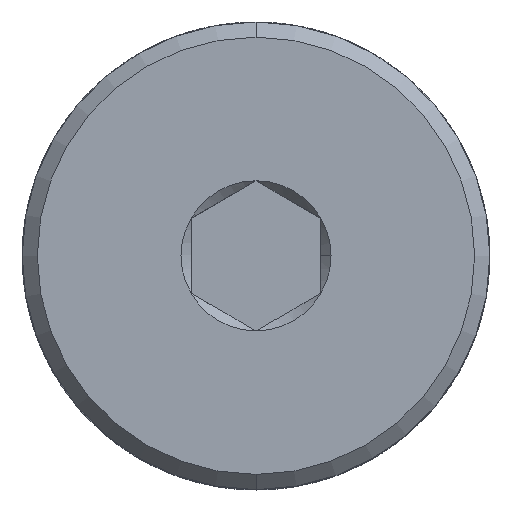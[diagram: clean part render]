
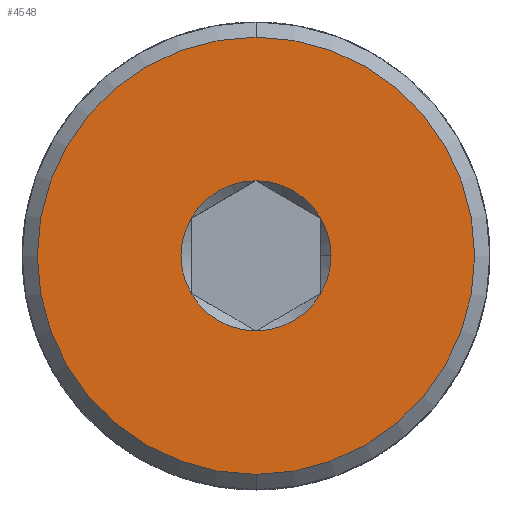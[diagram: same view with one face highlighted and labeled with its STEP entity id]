
A CAD part, top view. The second image highlights one B-rep face of the part: STEP entity #4548.
In plain terms, the highlighted planar face has unit normal (0, 0, 1).
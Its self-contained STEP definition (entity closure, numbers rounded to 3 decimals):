
#65 = VERTEX_POINT ( 'NONE', #4078 ) ;
#352 = DIRECTION ( 'NONE',  ( 0., -1., 0. ) ) ;
#448 = CARTESIAN_POINT ( 'NONE',  ( 0., 0., 0. ) ) ;
#568 = CARTESIAN_POINT ( 'NONE',  ( 0., 0., 0. ) ) ;
#1404 = AXIS2_PLACEMENT_3D ( 'NONE', #8253, #1694, #9374 ) ;
#1537 = CARTESIAN_POINT ( 'NONE',  ( 0., 0., 0. ) ) ;
#1548 = DIRECTION ( 'NONE',  ( 0., -1., 0. ) ) ;
#1626 = ORIENTED_EDGE ( 'NONE', *, *, #3085, .F. ) ;
#1681 = DIRECTION ( 'NONE',  ( 0., -1., 0. ) ) ;
#1694 = DIRECTION ( 'NONE',  ( 0., 0., 1. ) ) ;
#1711 = CIRCLE ( 'NONE', #7906, 1.443 ) ;
#1814 = AXIS2_PLACEMENT_3D ( 'NONE', #11953, #5354, #13045 ) ;
#1890 = AXIS2_PLACEMENT_3D ( 'NONE', #11538, #4979, #12660 ) ;
#2100 = AXIS2_PLACEMENT_3D ( 'NONE', #448, #8115, #1548 ) ;
#2182 = CARTESIAN_POINT ( 'NONE',  ( 0., -1.443, 0. ) ) ;
#2280 = VERTEX_POINT ( 'NONE', #3325 ) ;
#2429 = FACE_OUTER_BOUND ( 'NONE', #9939, .T. ) ;
#2553 = CARTESIAN_POINT ( 'NONE',  ( 0., 4.207, 0. ) ) ;
#2630 = DIRECTION ( 'NONE',  ( 1., 0., 0. ) ) ;
#2841 = VERTEX_POINT ( 'NONE', #12866 ) ;
#2861 = ORIENTED_EDGE ( 'NONE', *, *, #11345, .F. ) ;
#2879 = ORIENTED_EDGE ( 'NONE', *, *, #3529, .F. ) ;
#3072 = AXIS2_PLACEMENT_3D ( 'NONE', #12267, #5674, #13366 ) ;
#3085 = EDGE_CURVE ( 'NONE', #2841, #65, #13132, .T. ) ;
#3325 = CARTESIAN_POINT ( 'NONE',  ( 0., 1.443, 0. ) ) ;
#3426 = CIRCLE ( 'NONE', #13129, 4.207 ) ;
#3529 = EDGE_CURVE ( 'NONE', #3824, #6763, #10885, .T. ) ;
#3555 = CARTESIAN_POINT ( 'NONE',  ( 1.25, -0.722, 0. ) ) ;
#3824 = VERTEX_POINT ( 'NONE', #3555 ) ;
#4044 = CARTESIAN_POINT ( 'NONE',  ( 0., 0., 0. ) ) ;
#4078 = CARTESIAN_POINT ( 'NONE',  ( -1.25, -0.722, 0. ) ) ;
#4163 = AXIS2_PLACEMENT_3D ( 'NONE', #4044, #11707, #5144 ) ;
#4548 = ADVANCED_FACE ( 'NONE', ( #10853, #2429 ), #13453, .T. ) ;
#4817 = CIRCLE ( 'NONE', #1814, 1.443 ) ;
#4871 = ORIENTED_EDGE ( 'NONE', *, *, #13582, .F. ) ;
#4979 = DIRECTION ( 'NONE',  ( 0., 0., 1. ) ) ;
#5144 = DIRECTION ( 'NONE',  ( 1., 0., 0. ) ) ;
#5354 = DIRECTION ( 'NONE',  ( 0., 0., 1. ) ) ;
#5674 = DIRECTION ( 'NONE',  ( 0., 0., 1. ) ) ;
#5678 = DIRECTION ( 'NONE',  ( 0., 0., 1. ) ) ;
#5818 = CARTESIAN_POINT ( 'NONE',  ( 0., 0., 0. ) ) ;
#5847 = CIRCLE ( 'NONE', #1890, 1.443 ) ;
#6051 = ORIENTED_EDGE ( 'NONE', *, *, #7567, .F. ) ;
#6252 = CARTESIAN_POINT ( 'NONE',  ( 1.25, 0.722, 0. ) ) ;
#6278 = ORIENTED_EDGE ( 'NONE', *, *, #13285, .T. ) ;
#6763 = VERTEX_POINT ( 'NONE', #14122 ) ;
#6802 = ORIENTED_EDGE ( 'NONE', *, *, #10615, .F. ) ;
#6898 = DIRECTION ( 'NONE',  ( 0., 0., 1. ) ) ;
#7567 = EDGE_CURVE ( 'NONE', #65, #8967, #1711, .T. ) ;
#7652 = ORIENTED_EDGE ( 'NONE', *, *, #12566, .T. ) ;
#7906 = AXIS2_PLACEMENT_3D ( 'NONE', #12275, #5678, #13370 ) ;
#7975 = AXIS2_PLACEMENT_3D ( 'NONE', #5818, #6898, #352 ) ;
#8115 = DIRECTION ( 'NONE',  ( 0., 0., 1. ) ) ;
#8168 = AXIS2_PLACEMENT_3D ( 'NONE', #1537, #9227, #2630 ) ;
#8244 = DIRECTION ( 'NONE',  ( 0., 0., 1. ) ) ;
#8253 = CARTESIAN_POINT ( 'NONE',  ( 0., 0., 0. ) ) ;
#8817 = ORIENTED_EDGE ( 'NONE', *, *, #9078, .F. ) ;
#8830 = VERTEX_POINT ( 'NONE', #6252 ) ;
#8967 = VERTEX_POINT ( 'NONE', #2182 ) ;
#8992 = CIRCLE ( 'NONE', #8168, 1.443 ) ;
#9078 = EDGE_CURVE ( 'NONE', #8830, #2280, #10357, .T. ) ;
#9227 = DIRECTION ( 'NONE',  ( 0., 0., 1. ) ) ;
#9374 = DIRECTION ( 'NONE',  ( 1., 0., 0. ) ) ;
#9939 = EDGE_LOOP ( 'NONE', ( #6278, #7652 ) ) ;
#10087 = VERTEX_POINT ( 'NONE', #13529 ) ;
#10357 = CIRCLE ( 'NONE', #3072, 1.443 ) ;
#10615 = EDGE_CURVE ( 'NONE', #6763, #8830, #5847, .T. ) ;
#10853 = FACE_BOUND ( 'NONE', #11818, .T. ) ;
#10885 = CIRCLE ( 'NONE', #1404, 1.443 ) ;
#10991 = CIRCLE ( 'NONE', #2100, 4.207 ) ;
#11345 = EDGE_CURVE ( 'NONE', #8967, #3824, #4817, .T. ) ;
#11538 = CARTESIAN_POINT ( 'NONE',  ( 0., 0., 0. ) ) ;
#11707 = DIRECTION ( 'NONE',  ( 0., 0., 1. ) ) ;
#11818 = EDGE_LOOP ( 'NONE', ( #2861, #6051, #1626, #4871, #8817, #6802, #2879 ) ) ;
#11953 = CARTESIAN_POINT ( 'NONE',  ( 0., 0., 0. ) ) ;
#12267 = CARTESIAN_POINT ( 'NONE',  ( 0., 0., 0. ) ) ;
#12275 = CARTESIAN_POINT ( 'NONE',  ( 0., 0., 0. ) ) ;
#12324 = VERTEX_POINT ( 'NONE', #2553 ) ;
#12566 = EDGE_CURVE ( 'NONE', #10087, #12324, #10991, .T. ) ;
#12660 = DIRECTION ( 'NONE',  ( 1., 0., 0. ) ) ;
#12866 = CARTESIAN_POINT ( 'NONE',  ( -1.25, 0.722, 0. ) ) ;
#13045 = DIRECTION ( 'NONE',  ( 1., 0., 0. ) ) ;
#13129 = AXIS2_PLACEMENT_3D ( 'NONE', #568, #8244, #1681 ) ;
#13132 = CIRCLE ( 'NONE', #4163, 1.443 ) ;
#13285 = EDGE_CURVE ( 'NONE', #12324, #10087, #3426, .T. ) ;
#13366 = DIRECTION ( 'NONE',  ( 1., 0., 0. ) ) ;
#13370 = DIRECTION ( 'NONE',  ( 1., 0., 0. ) ) ;
#13453 = PLANE ( 'NONE',  #7975 ) ;
#13529 = CARTESIAN_POINT ( 'NONE',  ( 0., -4.207, 0. ) ) ;
#13582 = EDGE_CURVE ( 'NONE', #2280, #2841, #8992, .T. ) ;
#14122 = CARTESIAN_POINT ( 'NONE',  ( 1.443, 0., 0. ) ) ;
